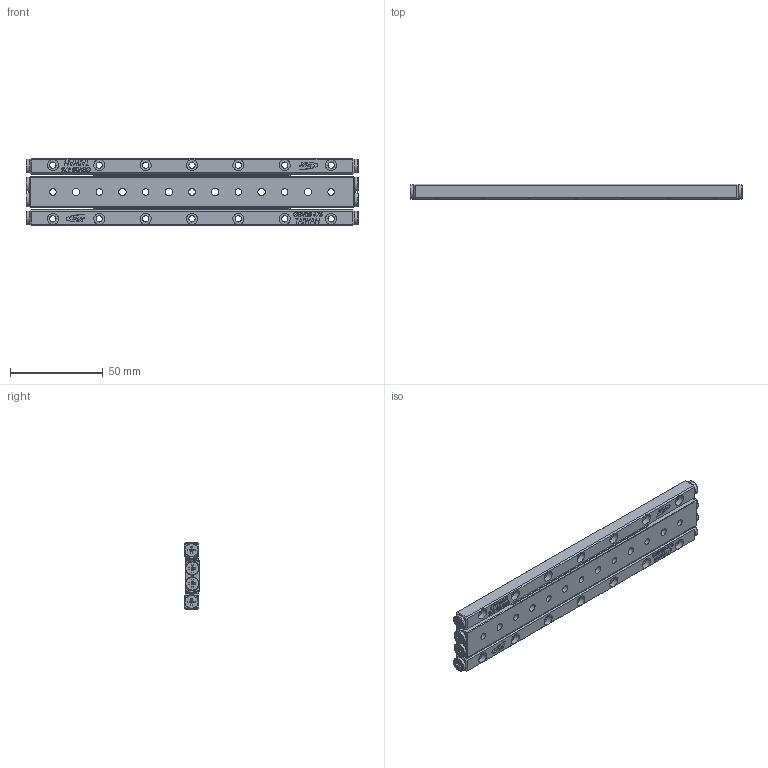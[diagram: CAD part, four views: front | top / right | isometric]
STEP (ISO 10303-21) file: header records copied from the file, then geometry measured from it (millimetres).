
FILE_DESCRIPTION (( 'STEP AP203' ), '1' );
FILE_NAME ('GBD03-175.STEP', '2023-11-20T05:27:08', ( '' ), ( '' ), 'SwSTEP 2.0', 'SolidWorks 2019', '' );
FILE_SCHEMA (( 'CONFIG_CONTROL_DESIGN' ));
Length unit declared in the file: millimetre
Products named in the file (4): GBD03-175-模糊化中軌; GBD03-175; GBV03-175-模糊化軌道; GBV03-175-模糊化保持器組
Assembly tree (5 placements, depth 2):
  GBD03-175
    GBD03-175-模糊化中軌
    GBV03-175-模糊化軌道  x2
    GBV03-175-模糊化保持器組  x2
Bounding box: 179 x 8.5 x 36 mm (x, y, z)
Volume: 42767 mm3; surface area: 27779.7 mm2
Topology: 5 solids, 5 shells, 1235 faces, 3246 edges, 2104 vertices
Faces by surface type: plane 819, bspline 186, sphere 84, cone 72, cylinder 58, torus 16
Full cylindrical faces by diameter (mm): 3.35 x14, 3.5 x7, 4 x6, 6 x21, 7.5 x8
Entity records: 30731 total; most frequent: CARTESIAN_POINT 11825, ORIENTED_EDGE 3910, DIRECTION 3318, EDGE_CURVE 1955, LINE 1322, VECTOR 1322, VERTEX_POINT 1285, EDGE_LOOP 1032
